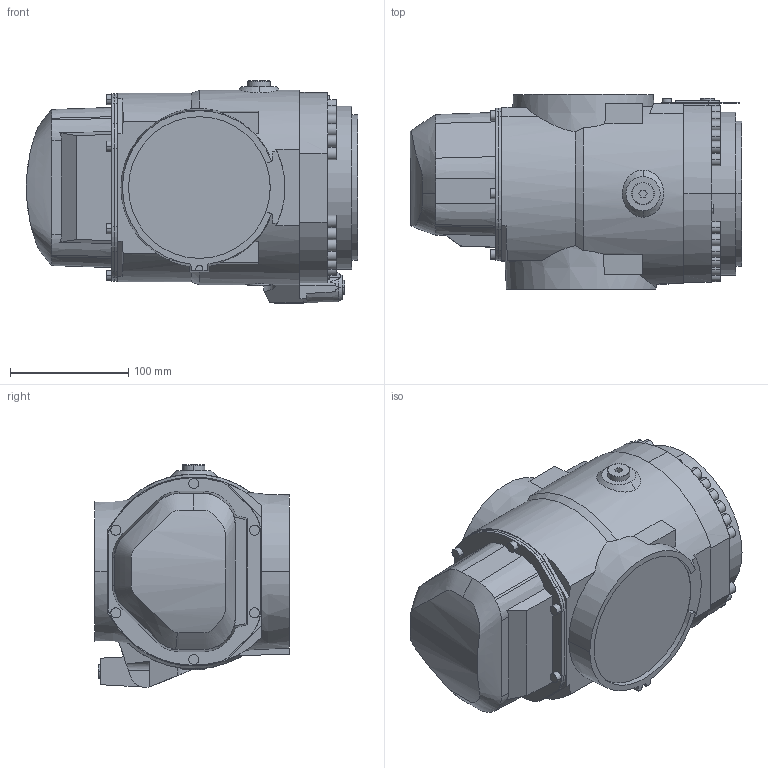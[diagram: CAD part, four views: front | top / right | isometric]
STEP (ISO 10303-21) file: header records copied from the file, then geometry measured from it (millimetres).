
FILE_DESCRIPTION (( 'STEP AP214' ), '1' );
FILE_NAME ('IRB5710-LID_90kg-230_OmniCore_rev00_LINK05_CAD.step', '2025-07-07T14:15:07', ( '' ), ( '' ), 'SwSTEP 2.0', 'SolidWorks 2024', '' );
FILE_SCHEMA (( 'AUTOMOTIVE_DESIGN' ));
Length unit declared in the file: millimetre
Products named in the file (1): IRB5710-LID_90kg-230_OmniCore_rev00_LINK05_CAD
Bounding box: 280.5 x 165 x 188.56 mm (x, y, z)
Volume: 5088443.9 mm3; surface area: 203035.3 mm2
Topology: 1 solids, 1 shells, 417 faces, 1122 edges, 742 vertices
Faces by surface type: plane 217, cylinder 134, cone 50, bspline 16
Entity records: 15876 total; most frequent: CARTESIAN_POINT 5338, ORIENTED_EDGE 2244, DIRECTION 2122, EDGE_CURVE 1122, AXIS2_PLACEMENT_3D 774, VERTEX_POINT 742, LINE 574, VECTOR 574
